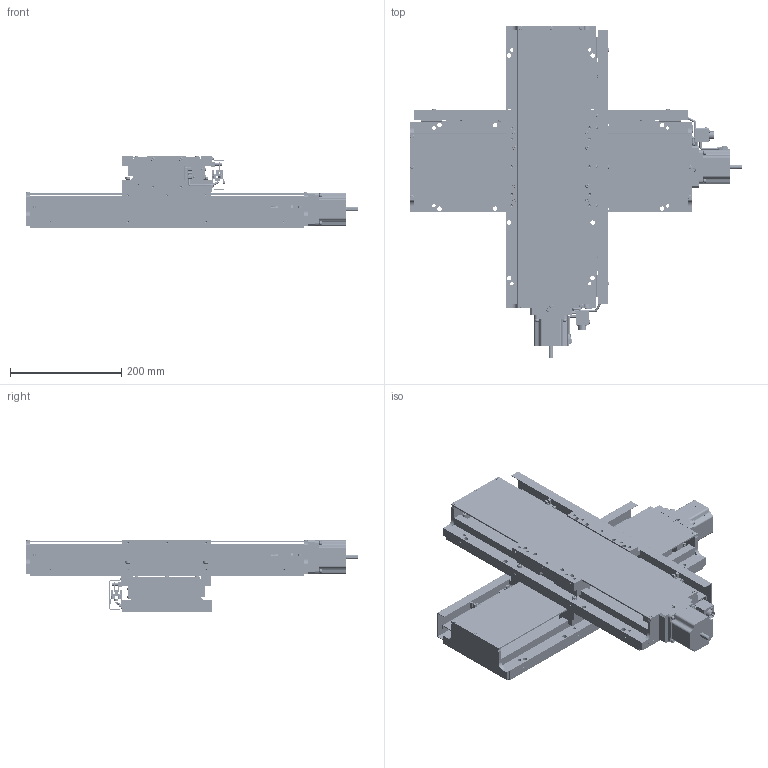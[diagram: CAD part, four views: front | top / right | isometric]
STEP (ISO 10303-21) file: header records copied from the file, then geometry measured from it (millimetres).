
FILE_DESCRIPTION( (''), '2;1');
FILE_NAME ('YA16F-L23301.stp','2021-01-05T15:31:08',(''),(''),'spGate 15.6.6','','');
FILE_SCHEMA (('AUTOMOTIVE_DESIGN'));
Length unit declared in the file: millimetre
Products named in the file (6): Assembly; YA16F-L23301-prt0; YA16F-L23301-prt1; YA16F-L23301-prt2; YA16F-L23301-prt3; YA16F-L23301-prt4
Assembly tree (5 placements, depth 2):
  Assembly
    YA16F-L23301-prt0
    YA16F-L23301-prt1
    YA16F-L23301-prt2
    YA16F-L23301-prt3
    YA16F-L23301-prt4
Bounding box: 596.5 x 596.5 x 130 mm (x, y, z)
Volume: 5526575.7 mm3; surface area: 1273130.5 mm2
Topology: 5 solids, 5 shells, 5212 faces, 12994 edges, 8092 vertices
Faces by surface type: plane 3124, cylinder 1248, bspline 776, sphere 64
Entity records: 262840 total; most frequent: CARTESIAN_POINT 38966, ORIENTED_EDGE 25644, DIRECTION 23848, COLOUR_RGB 18039, PRESENTATION_STYLE_ASSIGNMENT 18039, STYLED_ITEM 18039, EDGE_CURVE 12822, DRAUGHTING_PRE_DEFINED_CURVE_FONT 12822
